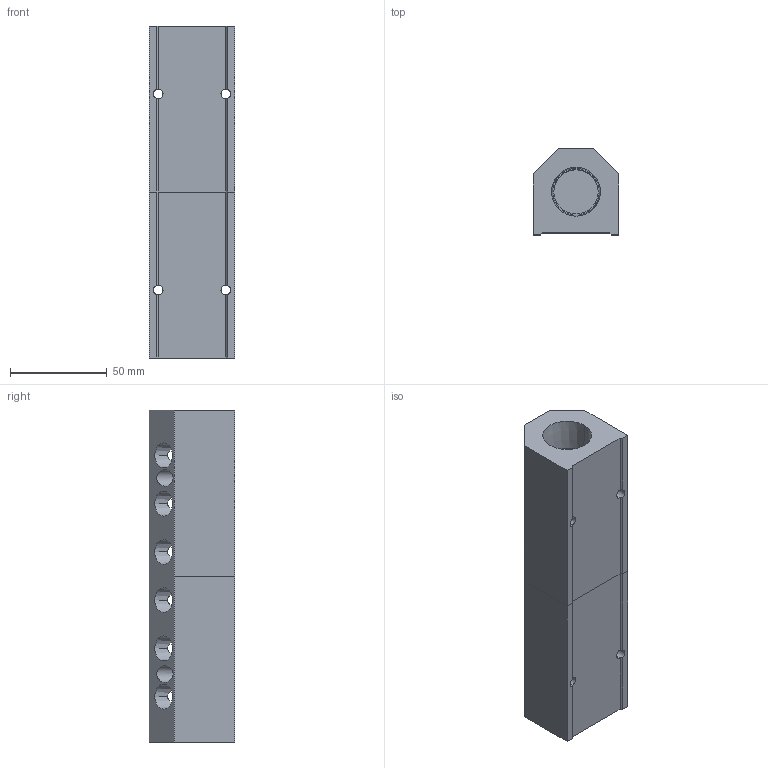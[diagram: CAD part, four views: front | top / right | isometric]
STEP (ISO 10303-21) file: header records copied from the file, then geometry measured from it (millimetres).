
FILE_DESCRIPTION (( 'STEP AP214' ), '1' );
FILE_NAME ('ALM6BCD-N4N12-172RB.step', '2022-02-06T14:18:46', ( '' ), ( '' ), 'SwSTEP 2.0', 'SolidWorks 2020', '' );
FILE_SCHEMA (( 'AUTOMOTIVE_DESIGN' ));
Length unit declared in the file: millimetre
Products named in the file (1): ALM6BCD-N4N12-172RB
Bounding box: 44.5 x 44.5 x 172 mm (x, y, z)
Volume: 204064.3 mm3; surface area: 53378.3 mm2
Topology: 2 solids, 2 shells, 381 faces, 1043 edges, 690 vertices
Faces by surface type: plane 241, bspline 62, cone 50, cylinder 28
Entity records: 21094 total; most frequent: CARTESIAN_POINT 8259, ORIENTED_EDGE 2086, DIRECTION 1543, EDGE_CURVE 1043, LINE 711, VECTOR 711, VERTEX_POINT 690, EDGE_LOOP 449
